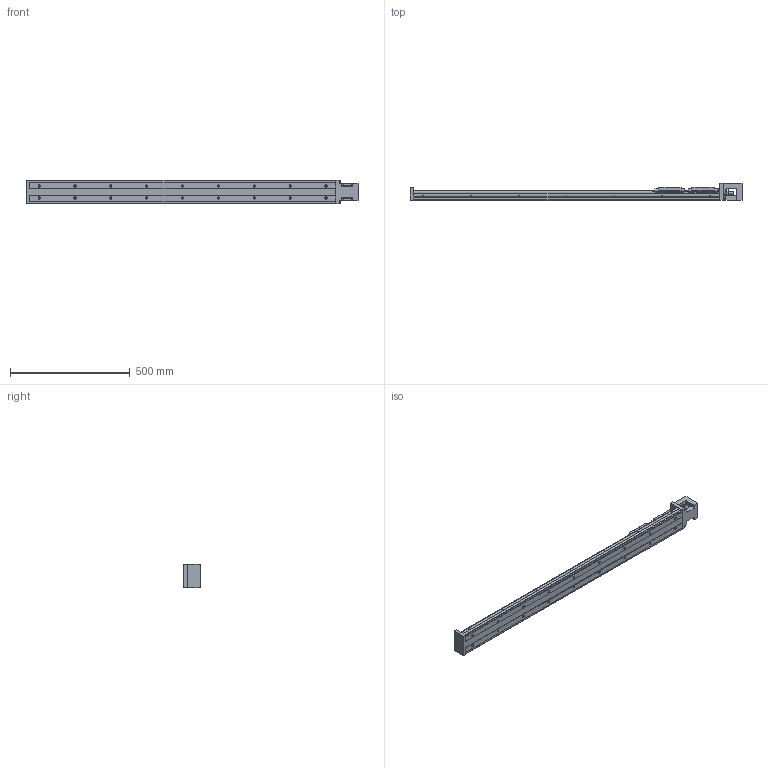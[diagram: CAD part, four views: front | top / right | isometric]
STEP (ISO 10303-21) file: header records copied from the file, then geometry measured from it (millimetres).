
FILE_DESCRIPTION( ( '' ), '1' );
FILE_NAME( '//partserver001.servicenet/client_exchange/iodir/jobs/output/wkb20113471_no6/STEP/kk10020p_1280a2_f0_2_03.stp', '2009-11-12T12:44:44', ( '' ), ( '' ), ' ', ' ', ' ' );
FILE_SCHEMA( ( 'CONFIG_CONTROL_DESIGN' ) );
Length unit declared in the file: millimetre
Products named in the file (4): 1; 2; 3; 4
Bounding box: 1389 x 72 x 100 mm (x, y, z)
Volume: 3660136.3 mm3; surface area: 636797.1 mm2
Topology: 4 solids, 4 shells, 677 faces, 1728 edges, 1074 vertices
Faces by surface type: plane 262, cylinder 247, cone 152, torus 16
Entity records: 20352 total; most frequent: DIRECTION 3668, CARTESIAN_POINT 3479, ORIENTED_EDGE 3312, EDGE_CURVE 1656, AXIS2_PLACEMENT_3D 1335, VERTEX_POINT 1074, LINE 998, VECTOR 998
